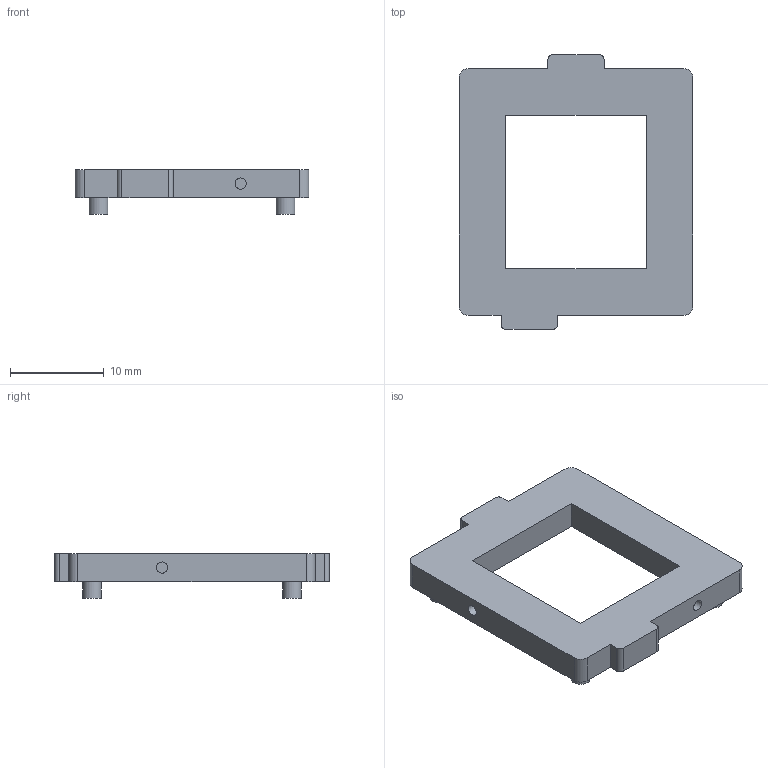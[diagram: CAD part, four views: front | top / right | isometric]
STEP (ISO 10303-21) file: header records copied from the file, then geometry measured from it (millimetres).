
FILE_DESCRIPTION(/* description */ (''),/* implementation_level */ '2;1');
FILE_NAME(/* name */ 'Supporto_Test_Splitter_Top.step',/* time_stamp */ '2023-03-13T17:27:51+01:00',/* author */ (''),/* organization */ (''),/* preprocessor_version */ 'ST-DEVELOPER v19.2',/* originating_system */ 'Autodesk Translation Framework v11.17.0.187',/* authorisation */ '');
FILE_SCHEMA (('AUTOMOTIVE_DESIGN { 1 0 10303 214 3 1 1 }'));
Length unit declared in the file: millimetre
Products named in the file (1): Supporto_Test_Splitter_Top
Bounding box: 25 x 29.4 x 4.8 mm (x, y, z)
Volume: 1304.1 mm3; surface area: 1447.3 mm2
Topology: 1 solids, 1 shells, 36 faces, 90 edges, 60 vertices
Faces by surface type: plane 22, cylinder 14
Full cylindrical faces by diameter (mm): 1.2 x2, 2 x4
Entity records: 1127 total; most frequent: DIRECTION 192, CARTESIAN_POINT 187, ORIENTED_EDGE 180, EDGE_CURVE 90, AXIS2_PLACEMENT_3D 65, LINE 62, VECTOR 62, VERTEX_POINT 60
